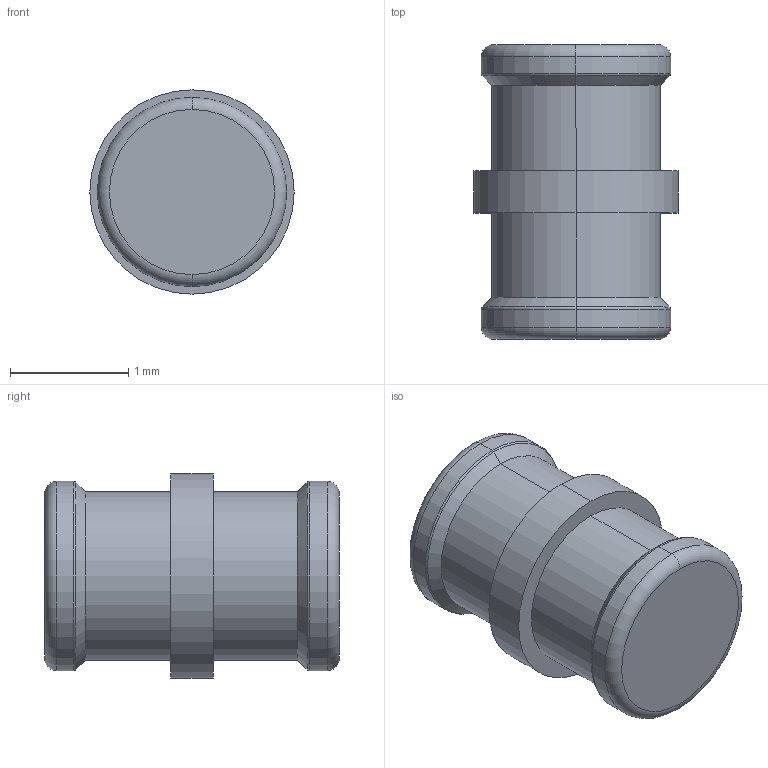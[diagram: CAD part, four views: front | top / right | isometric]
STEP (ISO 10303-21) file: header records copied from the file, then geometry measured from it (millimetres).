
FILE_DESCRIPTION (( 'STEP AP214' ), '1' );
FILE_NAME ('1138-4001.STEP', '2015-10-05T15:23:06', ( '' ), ( '' ), 'SwSTEP 2.0', 'SolidWorks 2015', '' );
FILE_SCHEMA (( 'AUTOMOTIVE_DESIGN' ));
Length unit declared in the file: inch
Products named in the file (1): 1138-4001
Bounding box: 1.73 x 2.49 x 1.73 mm (x, y, z)
Volume: 4.5 mm3; surface area: 17.2 mm2
Topology: 1 solids, 1 shells, 26 faces, 50 edges, 28 vertices
Faces by surface type: cylinder 10, torus 8, cone 4, plane 4
Entity records: 1040 total; most frequent: DIRECTION 140, CARTESIAN_POINT 105, ORIENTED_EDGE 100, AXIS2_PLACEMENT_3D 63, EDGE_CURVE 50, CIRCLE 36, DIMENSIONAL_EXPONENTS 29, LENGTH_MEASURE_WITH_UNIT 29
